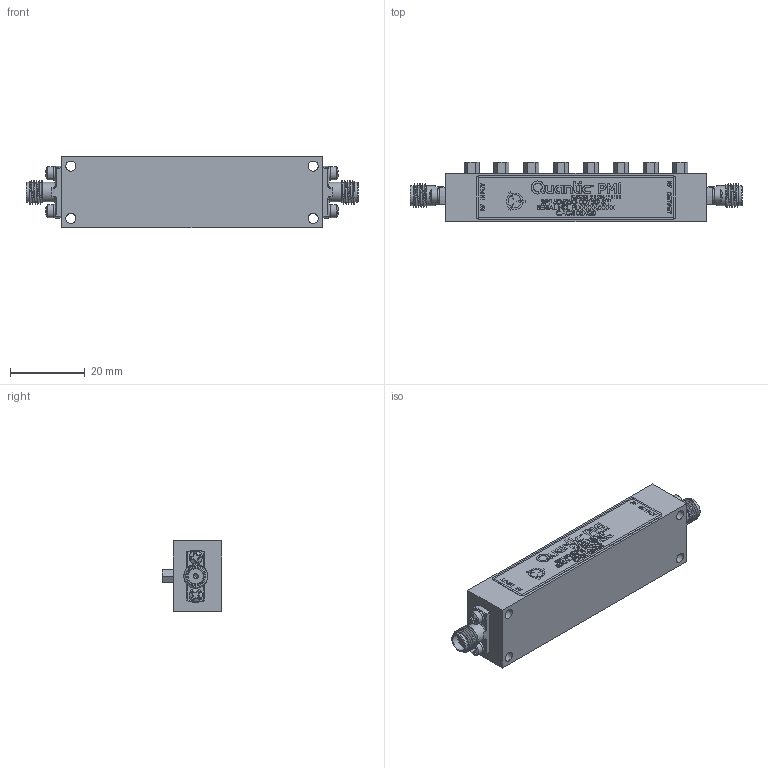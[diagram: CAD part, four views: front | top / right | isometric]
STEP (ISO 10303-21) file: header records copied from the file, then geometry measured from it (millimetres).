
FILE_DESCRIPTION (( 'STEP AP214' ), '1' );
FILE_NAME ('BPF-5D625G-0D75G-SFF.STEP', '2024-10-15T20:13:02', ( '' ), ( '' ), 'SwSTEP 2.0', 'SolidWorks 2024', '' );
FILE_SCHEMA (( 'AUTOMOTIVE_DESIGN' ));
Length unit declared in the file: inch
Products named in the file (1): BPF-5D625G-0D75G-SFF
Bounding box: 89.05 x 16 x 19.13 mm (x, y, z)
Volume: 17892.6 mm3; surface area: 8286.8 mm2
Topology: 16 solids, 16 shells, 545 faces, 2264 edges, 1894 vertices
Faces by surface type: plane 331, cylinder 96, torus 58, cone 28, bspline 28, sphere 4
Full cylindrical faces by diameter (mm): 0.381 x2, 0.508 x2, 0.635 x2, 1.016 x2, 1.27 x2, 1.943 x2, 2.184 x8, 2.591 x4, 2.7 x4, 3.556 x4, 4.191 x4, 4.597 x2, 5.283 x2, 5.334 x2
Entity records: 36060 total; most frequent: CARTESIAN_POINT 10767, ORIENTED_EDGE 4276, DIRECTION 3035, EDGE_CURVE 2138, VERTEX_POINT 1866, LINE 1267, VECTOR 1267, AXIS2_PLACEMENT_3D 884
